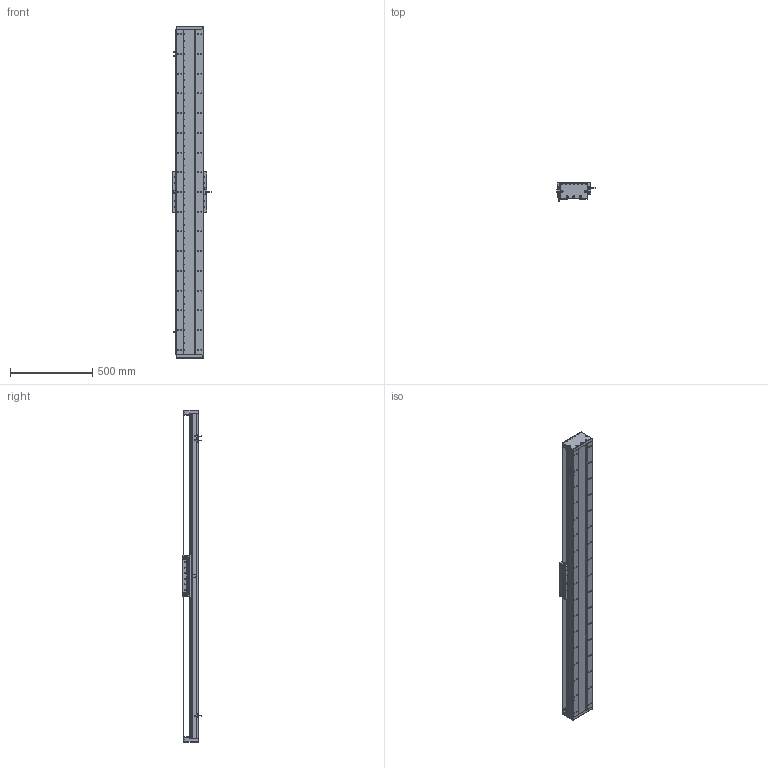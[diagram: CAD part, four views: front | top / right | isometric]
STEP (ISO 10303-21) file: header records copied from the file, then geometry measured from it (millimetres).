
FILE_DESCRIPTION (( 'STEP AP203' ), '1' );
FILE_NAME ('DA-C165-C3-T1680-C010-0.2 直线电机.STEP', '2023-06-13T08:48:16', ( '微软用户' ), ( '微软中国' ), 'SwSTEP 2.0', 'SolidWorks 2019', '' );
FILE_SCHEMA (( 'CONFIG_CONTROL_DESIGN' ));
Length unit declared in the file: millimetre
Products named in the file (18): DA-C165-C3-T1680-C010-0.2 眻盄萇儂; 复件 DA165-GD-1860-002-00 钢带盖板^复件 CU165钢带组件_DA-C165-C3-T-C010-0.2-N 直线电机; 复件 CU165 底座^IU-CU165-L 底座导轨_L1980; 复件 CU165钢带组件^DA-C165-C3-T-C010-0.2-N 直线电机; 复件 DA165-GDLK-00 钢带拉块^复件 CU165钢带组件_DA-C165-C3-T-C010-0.2-N 直线电机; 葩璃 DA95-GT-T-00^IU-CU165-L 菁釱絳寢_T; 葩璃 PM-T45^DA-C165-C3-T-C010-0.2-N 眻盄萇儂; 复件 DMA-010-0.2 读数头^DA-C165-C3-T-C010-0.2-N 直线电机; 葩璃 CKM01-W075-TRL^DA-C165-C3-T-C010-0.2-N 眻盄萇儂; 复件 DA95-HXJ-00 缓冲橡胶^DA-C165-C3-T-C010-0.2-N 直线电机; 复件 DA165-GDYK-00 钢带压块^复件 CU165钢带组件_DA-C165-C3-T-C010-0.2-N 直线电机; IU-CU165-L 菁釱絳寢; 葩璃 CKM03-W075-C1C2-TP-3.0^DA-C165-C3-T-C010-0.2-N 眻盄萇儂; 复件 XD-U-02L 磁栅尺^DA-C165-C3-T-C010-0.2-N 直线电机_T; 复件 DA165-GD-DG-H-00 端盖^复件 CU165钢带组件_DA-C165-C3-T-C010-0.2-N 直线电机; 复件 DA165-GYP-00 光电感应片^DA-C165-C3-T-C010-0.2-N 直线电机; 复件 六角薄螺母 M3^DA-C165-C3-T-C010-0.2-N 直线电机_GB_FASTENER_NUT_STNAB M3-C; 珨极趙賑雄怢啣C3-wf
Assembly tree (35 placements, depth 3):
  DA-C165-C3-T1680-C010-0.2 眻盄萇儂
    IU-CU165-L 菁釱絳寢
      复件 CU165 底座^IU-CU165-L 底座导轨_L1980
      葩璃 DA95-GT-T-00^IU-CU165-L 菁釱絳寢_T  x4
    复件 XD-U-02L 磁栅尺^DA-C165-C3-T-C010-0.2-N 直线电机_T
    葩璃 PM-T45^DA-C165-C3-T-C010-0.2-N 眻盄萇儂  x3
    葩璃 CKM01-W075-TRL^DA-C165-C3-T-C010-0.2-N 眻盄萇儂
    复件 CU165钢带组件^DA-C165-C3-T-C010-0.2-N 直线电机
      复件 DA165-GD-DG-H-00 端盖^复件 CU165钢带组件_DA-C165-C3-T-C010-0.2-N 直线电机  x2
      复件 DA165-GDYK-00 钢带压块^复件 CU165钢带组件_DA-C165-C3-T-C010-0.2-N 直线电机  x2
      复件 DA165-GD-1860-002-00 钢带盖板^复件 CU165钢带组件_DA-C165-C3-T-C010-0.2-N 直线电机
      复件 DA165-GDLK-00 钢带拉块^复件 CU165钢带组件_DA-C165-C3-T-C010-0.2-N 直线电机  x2
    复件 DA95-HXJ-00 缓冲橡胶^DA-C165-C3-T-C010-0.2-N 直线电机  x4
    复件 DA165-GYP-00 光电感应片^DA-C165-C3-T-C010-0.2-N 直线电机
    复件 DMA-010-0.2 读数头^DA-C165-C3-T-C010-0.2-N 直线电机
    葩璃 CKM03-W075-C1C2-TP-3.0^DA-C165-C3-T-C010-0.2-N 眻盄萇儂
    复件 六角薄螺母 M3^DA-C165-C3-T-C010-0.2-N 直线电机_GB_FASTENER_NUT_STNAB M3-C  x8
    珨极趙賑雄怢啣C3-wf
Bounding box: 233 x 111.45 x 2020 mm (x, y, z)
Volume: 12238364.8 mm3; surface area: 3548915.2 mm2
Topology: 72 solids, 122 shells, 4062 faces, 11357 edges, 7130 vertices
Faces by surface type: cylinder 2240, plane 1196, cone 576, torus 46, sphere 4
Entity records: 128705 total; most frequent: CARTESIAN_POINT 33465, ORIENTED_EDGE 19466, DIRECTION 19421, EDGE_CURVE 9733, AXIS2_PLACEMENT_3D 7434, VERTEX_POINT 6318, EDGE_LOOP 4585, VECTOR 4553
